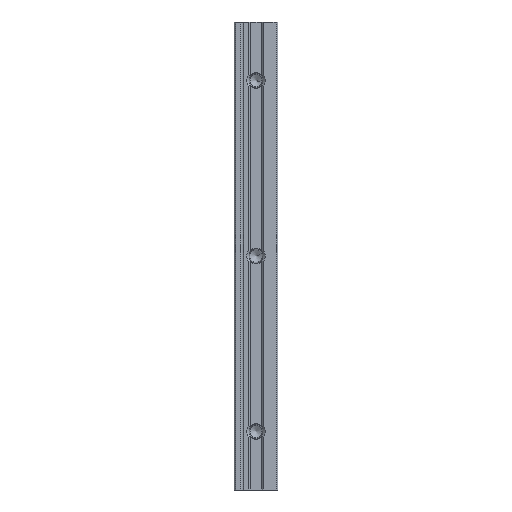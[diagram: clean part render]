
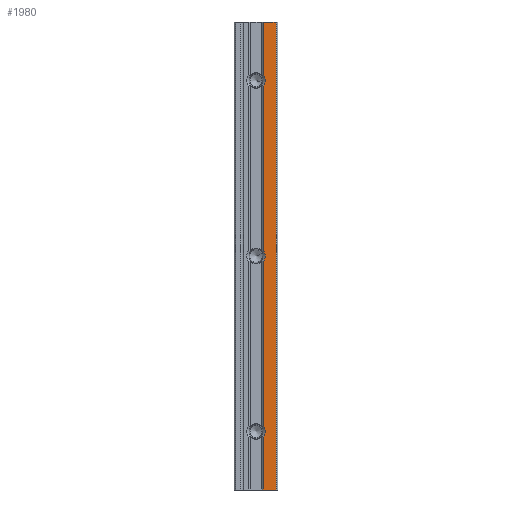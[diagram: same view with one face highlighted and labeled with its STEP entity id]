
A CAD part, front view. The second image highlights one B-rep face of the part: STEP entity #1980.
In plain terms, the highlighted planar face has unit normal (0, -1, 0).
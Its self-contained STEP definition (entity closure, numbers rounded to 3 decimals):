
#8 = AXIS2_PLACEMENT_3D ( 'NONE', #1563, #1293, #1016 ) ;
#20 = VERTEX_POINT ( 'NONE', #2447 ) ;
#27 = DIRECTION ( 'NONE',  ( -1., 0., 0. ) ) ;
#40 = LINE ( 'NONE', #2405, #2253 ) ;
#69 = ORIENTED_EDGE ( 'NONE', *, *, #1541, .T. ) ;
#73 = CARTESIAN_POINT ( 'NONE',  ( 10., 0., -160. ) ) ;
#78 = CIRCLE ( 'NONE', #2185, 3.15 ) ;
#106 = DIRECTION ( 'NONE',  ( 1., 0., 0. ) ) ;
#126 = ORIENTED_EDGE ( 'NONE', *, *, #2165, .F. ) ;
#141 = CARTESIAN_POINT ( 'NONE',  ( 7.5, 0., -140. ) ) ;
#199 = AXIS2_PLACEMENT_3D ( 'NONE', #794, #548, #278 ) ;
#251 = CARTESIAN_POINT ( 'NONE',  ( 10.65, 0., -80. ) ) ;
#265 = DIRECTION ( 'NONE',  ( 0., 0., 1. ) ) ;
#278 = DIRECTION ( 'NONE',  ( 0., 0., -1. ) ) ;
#314 = DIRECTION ( 'NONE',  ( 0., 1., 0. ) ) ;
#330 = CARTESIAN_POINT ( 'NONE',  ( 7.5, 0., -80. ) ) ;
#395 = CARTESIAN_POINT ( 'NONE',  ( 10., 0., -160. ) ) ;
#411 = CARTESIAN_POINT ( 'NONE',  ( 10., 0., -138.084 ) ) ;
#413 = VERTEX_POINT ( 'NONE', #1906 ) ;
#414 = DIRECTION ( 'NONE',  ( 0., 0., 1. ) ) ;
#457 = DIRECTION ( 'NONE',  ( -1., 0., 0. ) ) ;
#468 = FACE_OUTER_BOUND ( 'NONE', #1132, .T. ) ;
#487 = CIRCLE ( 'NONE', #1008, 3.15 ) ;
#496 = CIRCLE ( 'NONE', #2105, 3.15 ) ;
#515 = VECTOR ( 'NONE', #414, 1000. ) ;
#526 = ORIENTED_EDGE ( 'NONE', *, *, #2187, .F. ) ;
#532 = DIRECTION ( 'NONE',  ( 0., 0., 1. ) ) ;
#533 = CARTESIAN_POINT ( 'NONE',  ( 10., 0., -160. ) ) ;
#548 = DIRECTION ( 'NONE',  ( 0., -1., 0. ) ) ;
#562 = CARTESIAN_POINT ( 'NONE',  ( 10., 0., -141.916 ) ) ;
#598 = EDGE_CURVE ( 'NONE', #769, #2040, #487, .T. ) ;
#620 = LINE ( 'NONE', #73, #1445 ) ;
#644 = ORIENTED_EDGE ( 'NONE', *, *, #1714, .F. ) ;
#645 = LINE ( 'NONE', #395, #1450 ) ;
#662 = CARTESIAN_POINT ( 'NONE',  ( 14.4, 0., -160. ) ) ;
#683 = CIRCLE ( 'NONE', #8, 3.15 ) ;
#710 = DIRECTION ( 'NONE',  ( 0., 1., 0. ) ) ;
#769 = VERTEX_POINT ( 'NONE', #803 ) ;
#783 = CARTESIAN_POINT ( 'NONE',  ( 10., 0., -160. ) ) ;
#784 = LINE ( 'NONE', #533, #2035 ) ;
#794 = CARTESIAN_POINT ( 'NONE',  ( 10., 0., -160. ) ) ;
#803 = CARTESIAN_POINT ( 'NONE',  ( 10.65, 0., -140. ) ) ;
#844 = CARTESIAN_POINT ( 'NONE',  ( 10., 0., -78.084 ) ) ;
#861 = CARTESIAN_POINT ( 'NONE',  ( 10., 0., -81.916 ) ) ;
#868 = AXIS2_PLACEMENT_3D ( 'NONE', #1782, #710, #457 ) ;
#923 = LINE ( 'NONE', #662, #515 ) ;
#1008 = AXIS2_PLACEMENT_3D ( 'NONE', #141, #2227, #1946 ) ;
#1016 = DIRECTION ( 'NONE',  ( -1., 0., 0. ) ) ;
#1041 = LINE ( 'NONE', #783, #2454 ) ;
#1069 = ORIENTED_EDGE ( 'NONE', *, *, #598, .T. ) ;
#1073 = CARTESIAN_POINT ( 'NONE',  ( 10., 0., -18.084 ) ) ;
#1110 = VERTEX_POINT ( 'NONE', #844 ) ;
#1132 = EDGE_LOOP ( 'NONE', ( #2575, #1069, #1487, #1415, #69, #2074, #126, #2274, #2060, #526, #1521, #1646, #644 ) ) ;
#1158 = VERTEX_POINT ( 'NONE', #861 ) ;
#1288 = VERTEX_POINT ( 'NONE', #1686 ) ;
#1293 = DIRECTION ( 'NONE',  ( 0., 1., 0. ) ) ;
#1325 = EDGE_CURVE ( 'NONE', #1952, #769, #683, .T. ) ;
#1381 = VERTEX_POINT ( 'NONE', #251 ) ;
#1382 = VERTEX_POINT ( 'NONE', #2592 ) ;
#1415 = ORIENTED_EDGE ( 'NONE', *, *, #1912, .T. ) ;
#1445 = VECTOR ( 'NONE', #2436, 1000. ) ;
#1450 = VECTOR ( 'NONE', #106, 1000. ) ;
#1455 = VERTEX_POINT ( 'NONE', #2532 ) ;
#1487 = ORIENTED_EDGE ( 'NONE', *, *, #1518, .F. ) ;
#1511 = EDGE_CURVE ( 'NONE', #1382, #1455, #40, .T. ) ;
#1515 = EDGE_CURVE ( 'NONE', #1381, #1158, #496, .T. ) ;
#1518 = EDGE_CURVE ( 'NONE', #1288, #2040, #1041, .T. ) ;
#1521 = ORIENTED_EDGE ( 'NONE', *, *, #1524, .T. ) ;
#1524 = EDGE_CURVE ( 'NONE', #1110, #1381, #78, .T. ) ;
#1541 = EDGE_CURVE ( 'NONE', #413, #1455, #923, .T. ) ;
#1563 = CARTESIAN_POINT ( 'NONE',  ( 7.5, 0., -140. ) ) ;
#1591 = DIRECTION ( 'NONE',  ( -1., 0., 0. ) ) ;
#1610 = CARTESIAN_POINT ( 'NONE',  ( 10., 0., -21.916 ) ) ;
#1623 = VECTOR ( 'NONE', #1921, 1000. ) ;
#1646 = ORIENTED_EDGE ( 'NONE', *, *, #1515, .T. ) ;
#1686 = CARTESIAN_POINT ( 'NONE',  ( 10., 0., -160. ) ) ;
#1714 = EDGE_CURVE ( 'NONE', #1952, #1158, #620, .T. ) ;
#1782 = CARTESIAN_POINT ( 'NONE',  ( 7.5, 0., -20. ) ) ;
#1797 = DIRECTION ( 'NONE',  ( -1., 0., 0. ) ) ;
#1853 = DIRECTION ( 'NONE',  ( 0., 1., 0. ) ) ;
#1864 = PLANE ( 'NONE',  #199 ) ;
#1906 = CARTESIAN_POINT ( 'NONE',  ( 14.4, 0., -160. ) ) ;
#1912 = EDGE_CURVE ( 'NONE', #1288, #413, #645, .T. ) ;
#1921 = DIRECTION ( 'NONE',  ( 0., 0., 1. ) ) ;
#1946 = DIRECTION ( 'NONE',  ( -1., 0., 0. ) ) ;
#1952 = VERTEX_POINT ( 'NONE', #411 ) ;
#1980 = ADVANCED_FACE ( 'NONE', ( #468 ), #1864, .T. ) ;
#2035 = VECTOR ( 'NONE', #265, 1000. ) ;
#2040 = VERTEX_POINT ( 'NONE', #562 ) ;
#2060 = ORIENTED_EDGE ( 'NONE', *, *, #2133, .T. ) ;
#2063 = DIRECTION ( 'NONE',  ( 0., 1., 0. ) ) ;
#2074 = ORIENTED_EDGE ( 'NONE', *, *, #1511, .F. ) ;
#2102 = CIRCLE ( 'NONE', #2426, 3.15 ) ;
#2105 = AXIS2_PLACEMENT_3D ( 'NONE', #330, #1853, #1591 ) ;
#2129 = DIRECTION ( 'NONE',  ( 1., 0., 0. ) ) ;
#2133 = EDGE_CURVE ( 'NONE', #20, #2295, #2102, .T. ) ;
#2147 = EDGE_CURVE ( 'NONE', #2373, #20, #2516, .T. ) ;
#2165 = EDGE_CURVE ( 'NONE', #2373, #1382, #2467, .T. ) ;
#2185 = AXIS2_PLACEMENT_3D ( 'NONE', #2343, #2063, #1797 ) ;
#2186 = CARTESIAN_POINT ( 'NONE',  ( 7.5, 0., -20. ) ) ;
#2187 = EDGE_CURVE ( 'NONE', #1110, #2295, #784, .T. ) ;
#2204 = CARTESIAN_POINT ( 'NONE',  ( 10., 0., -160. ) ) ;
#2227 = DIRECTION ( 'NONE',  ( 0., 1., 0. ) ) ;
#2253 = VECTOR ( 'NONE', #2129, 1000. ) ;
#2274 = ORIENTED_EDGE ( 'NONE', *, *, #2147, .T. ) ;
#2295 = VERTEX_POINT ( 'NONE', #1610 ) ;
#2343 = CARTESIAN_POINT ( 'NONE',  ( 7.5, 0., -80. ) ) ;
#2373 = VERTEX_POINT ( 'NONE', #1073 ) ;
#2405 = CARTESIAN_POINT ( 'NONE',  ( 10., 0., 0. ) ) ;
#2426 = AXIS2_PLACEMENT_3D ( 'NONE', #2186, #314, #27 ) ;
#2436 = DIRECTION ( 'NONE',  ( 0., 0., 1. ) ) ;
#2447 = CARTESIAN_POINT ( 'NONE',  ( 10.65, 0., -20. ) ) ;
#2454 = VECTOR ( 'NONE', #532, 1000. ) ;
#2467 = LINE ( 'NONE', #2204, #1623 ) ;
#2516 = CIRCLE ( 'NONE', #868, 3.15 ) ;
#2532 = CARTESIAN_POINT ( 'NONE',  ( 14.4, 0., 0. ) ) ;
#2575 = ORIENTED_EDGE ( 'NONE', *, *, #1325, .T. ) ;
#2592 = CARTESIAN_POINT ( 'NONE',  ( 10., 0., 0. ) ) ;
